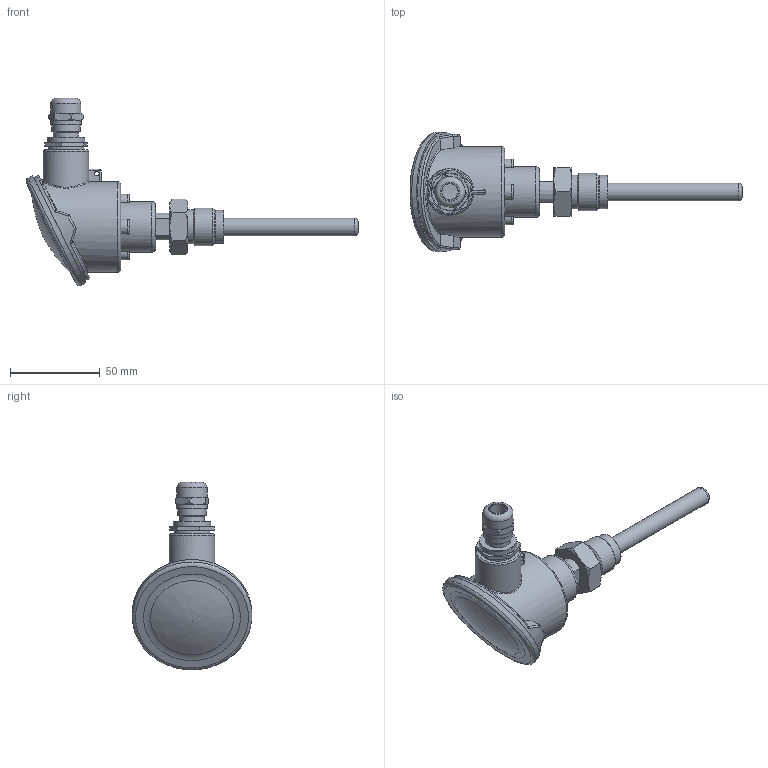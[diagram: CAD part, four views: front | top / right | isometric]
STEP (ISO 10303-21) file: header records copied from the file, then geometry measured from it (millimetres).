
FILE_DESCRIPTION(/* description */ ('Unknown'),/* implementation_level */ '2;1');
FILE_NAME(/* name */ 'TCR6-1620.2001.1033.1810.0075',/* time_stamp */ '2021-01-08T09:14:01+01:00',/* author */ ('Unknown'),/* organization */ ('Unknown'),/* preprocessor_version */ 'ST-DEVELOPER v16.7',/* originating_system */ 'DEX',/* authorisation */ $);
FILE_SCHEMA (('AUTOMOTIVE_DESIGN {1 0 10303 214 3 1 1}'));
Length unit declared in the file: millimetre
Products named in the file (1): Part2
Bounding box: 185.29 x 66.75 x 104.58 mm (x, y, z)
Volume: 68008.1 mm3; surface area: 42797.2 mm2
Topology: 2 solids, 2 shells, 208 faces, 505 edges, 323 vertices
Faces by surface type: plane 89, cylinder 40, cone 35, torus 22, bspline 18, sphere 4
Full cylindrical faces by diameter (mm): 2.5 x1, 8 x2, 8.4 x1, 9 x1, 10 x1, 11.2 x1, 13.1 x1, 13.16 x1, 14 x1, 14.376 x1, 15.5 x1, 15.7 x1, 15.77 x1, 16.8 x1, 16.9 x1, 18.376 x1, 18.5 x1, 18.955 x1, 20 x1, 20.9 x1, 20.955 x1, 25.5 x1, 28.2 x1, 47 x1, 50 x1, 50.5 x1, 64.5 x1, 67 x1
Entity records: 8479 total; most frequent: CARTESIAN_POINT 2740, DIRECTION 850, ORIENTED_EDGE 826, EDGE_CURVE 413, AXIS2_PLACEMENT_3D 372, FACE_BOUND 294, EDGE_LOOP 292, VERTEX_POINT 291
